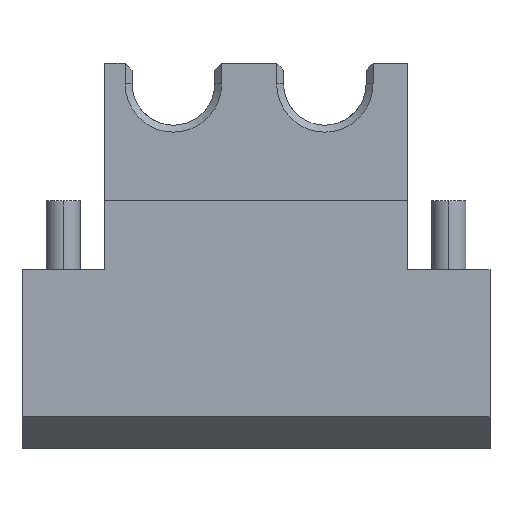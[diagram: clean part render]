
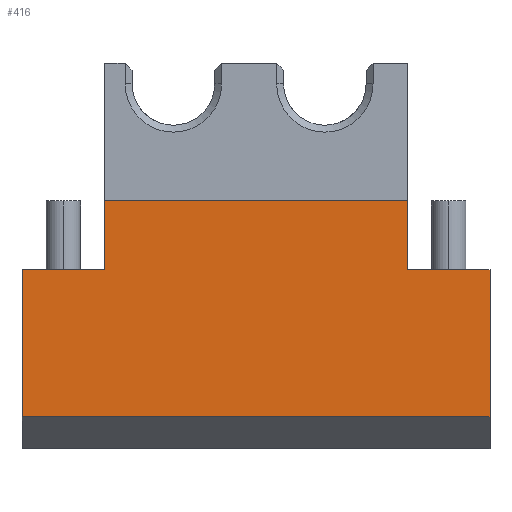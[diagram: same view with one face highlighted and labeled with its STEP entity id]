
A CAD part, left-side view. The second image highlights one B-rep face of the part: STEP entity #416.
In plain terms, the highlighted planar face has unit normal (-1, 0, 0).
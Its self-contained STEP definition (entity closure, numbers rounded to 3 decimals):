
#22 = CARTESIAN_POINT ( 'NONE',  ( 0., 11., 18. ) ) ;
#53 = VECTOR ( 'NONE', #434, 1000. ) ;
#76 = LINE ( 'NONE', #759, #524 ) ;
#97 = DIRECTION ( 'NONE',  ( 0., -1., 0. ) ) ;
#123 = VECTOR ( 'NONE', #97, 1000. ) ;
#130 = ORIENTED_EDGE ( 'NONE', *, *, #1624, .F. ) ;
#231 = VERTEX_POINT ( 'NONE', #420 ) ;
#253 = ORIENTED_EDGE ( 'NONE', *, *, #509, .T. ) ;
#257 = VERTEX_POINT ( 'NONE', #22 ) ;
#266 = EDGE_LOOP ( 'NONE', ( #253, #1735, #929, #839, #1681, #130, #597, #1086 ) ) ;
#279 = AXIS2_PLACEMENT_3D ( 'NONE', #348, #1219, #1774 ) ;
#284 = DIRECTION ( 'NONE',  ( 0., 1., 0. ) ) ;
#291 = CARTESIAN_POINT ( 'NONE',  ( 0., -17., 13. ) ) ;
#311 = CARTESIAN_POINT ( 'NONE',  ( 0., -17., 2.309 ) ) ;
#325 = CARTESIAN_POINT ( 'NONE',  ( 0., -17., 18. ) ) ;
#346 = CARTESIAN_POINT ( 'NONE',  ( 0., -17., 28. ) ) ;
#348 = CARTESIAN_POINT ( 'NONE',  ( 0., 17., 28. ) ) ;
#357 = EDGE_CURVE ( 'NONE', #1079, #936, #1155, .T. ) ;
#407 = CARTESIAN_POINT ( 'NONE',  ( 0., 17., 2.309 ) ) ;
#416 = ADVANCED_FACE ( 'NONE', ( #724 ), #1024, .T. ) ;
#420 = CARTESIAN_POINT ( 'NONE',  ( 0., 11., 13. ) ) ;
#434 = DIRECTION ( 'NONE',  ( 0., 0., -1. ) ) ;
#484 = VERTEX_POINT ( 'NONE', #311 ) ;
#509 = EDGE_CURVE ( 'NONE', #1558, #257, #1130, .T. ) ;
#524 = VECTOR ( 'NONE', #1059, 1000. ) ;
#541 = VECTOR ( 'NONE', #284, 1000. ) ;
#549 = VERTEX_POINT ( 'NONE', #291 ) ;
#597 = ORIENTED_EDGE ( 'NONE', *, *, #1323, .F. ) ;
#632 = DIRECTION ( 'NONE',  ( 0., -1., 0. ) ) ;
#652 = LINE ( 'NONE', #407, #1550 ) ;
#724 = FACE_OUTER_BOUND ( 'NONE', #266, .T. ) ;
#759 = CARTESIAN_POINT ( 'NONE',  ( 0., 11., 13. ) ) ;
#808 = CARTESIAN_POINT ( 'NONE',  ( 0., 17., 13. ) ) ;
#832 = DIRECTION ( 'NONE',  ( 0., -1., 0. ) ) ;
#839 = ORIENTED_EDGE ( 'NONE', *, *, #357, .T. ) ;
#903 = CARTESIAN_POINT ( 'NONE',  ( 0., -11., 28. ) ) ;
#929 = ORIENTED_EDGE ( 'NONE', *, *, #1610, .F. ) ;
#936 = VERTEX_POINT ( 'NONE', #1084 ) ;
#1024 = PLANE ( 'NONE',  #279 ) ;
#1025 = EDGE_CURVE ( 'NONE', #936, #484, #652, .T. ) ;
#1056 = VECTOR ( 'NONE', #1699, 1000. ) ;
#1059 = DIRECTION ( 'NONE',  ( 0., 0., 1. ) ) ;
#1065 = CARTESIAN_POINT ( 'NONE',  ( 0., 17., 13. ) ) ;
#1071 = VECTOR ( 'NONE', #632, 1000. ) ;
#1079 = VERTEX_POINT ( 'NONE', #808 ) ;
#1084 = CARTESIAN_POINT ( 'NONE',  ( 0., 17., 2.309 ) ) ;
#1086 = ORIENTED_EDGE ( 'NONE', *, *, #1404, .F. ) ;
#1097 = LINE ( 'NONE', #903, #1056 ) ;
#1130 = LINE ( 'NONE', #325, #541 ) ;
#1155 = LINE ( 'NONE', #1668, #1508 ) ;
#1219 = DIRECTION ( 'NONE',  ( -1., 0., 0. ) ) ;
#1237 = VERTEX_POINT ( 'NONE', #1252 ) ;
#1249 = LINE ( 'NONE', #1065, #123 ) ;
#1252 = CARTESIAN_POINT ( 'NONE',  ( 0., -11., 13. ) ) ;
#1323 = EDGE_CURVE ( 'NONE', #1237, #549, #1422, .T. ) ;
#1404 = EDGE_CURVE ( 'NONE', #1558, #1237, #1097, .T. ) ;
#1422 = LINE ( 'NONE', #1692, #1071 ) ;
#1426 = CARTESIAN_POINT ( 'NONE',  ( 0., -11., 18. ) ) ;
#1474 = LINE ( 'NONE', #346, #53 ) ;
#1501 = EDGE_CURVE ( 'NONE', #231, #257, #76, .T. ) ;
#1508 = VECTOR ( 'NONE', #1687, 1000. ) ;
#1550 = VECTOR ( 'NONE', #832, 1000. ) ;
#1558 = VERTEX_POINT ( 'NONE', #1426 ) ;
#1610 = EDGE_CURVE ( 'NONE', #1079, #231, #1249, .T. ) ;
#1624 = EDGE_CURVE ( 'NONE', #549, #484, #1474, .T. ) ;
#1668 = CARTESIAN_POINT ( 'NONE',  ( 0., 17., 28. ) ) ;
#1681 = ORIENTED_EDGE ( 'NONE', *, *, #1025, .T. ) ;
#1687 = DIRECTION ( 'NONE',  ( 0., 0., -1. ) ) ;
#1692 = CARTESIAN_POINT ( 'NONE',  ( 0., -11., 13. ) ) ;
#1699 = DIRECTION ( 'NONE',  ( 0., 0., -1. ) ) ;
#1735 = ORIENTED_EDGE ( 'NONE', *, *, #1501, .F. ) ;
#1774 = DIRECTION ( 'NONE',  ( 0., 0., 1. ) ) ;
